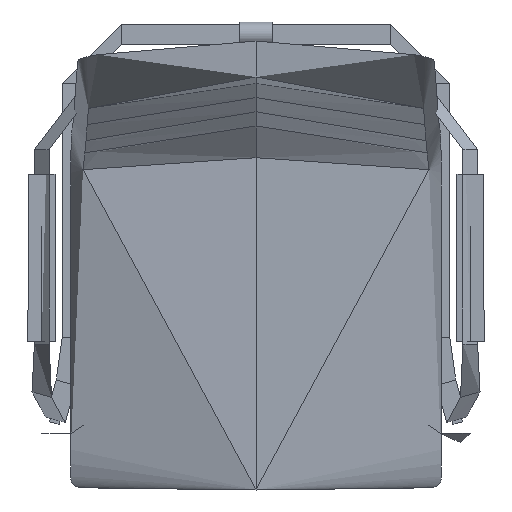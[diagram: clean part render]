
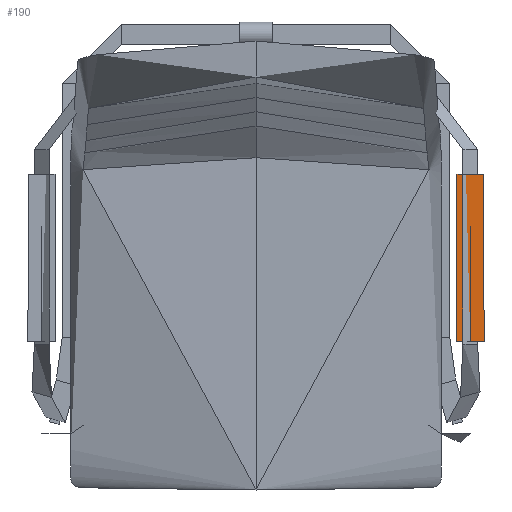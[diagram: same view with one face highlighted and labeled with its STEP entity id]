
A CAD part, top view. The second image highlights one B-rep face of the part: STEP entity #190.
In plain terms, the highlighted free-form (B-spline) face has degree [1, 2] with [2, 9] control points.
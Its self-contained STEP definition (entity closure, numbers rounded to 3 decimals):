
#96=B_SPLINE_CURVE_WITH_KNOTS('',3,(#1964,#1965,#1966,#1967),
 .UNSPECIFIED.,.F.,.F.,(4,4),(0.,205.063),.UNSPECIFIED.);
#97=B_SPLINE_CURVE_WITH_KNOTS('',3,(#1968,#1969,#1970,#1971),
 .UNSPECIFIED.,.F.,.F.,(4,4),(0.,205.063),.UNSPECIFIED.);
#190=ADVANCED_FACE('',(#304),#1459,.T.);
#304=FACE_OUTER_BOUND('',#418,.T.);
#418=EDGE_LOOP('',(#616,#617,#618,#619));
#616=ORIENTED_EDGE('',*,*,#1008,.T.);
#617=ORIENTED_EDGE('',*,*,#1010,.F.);
#618=ORIENTED_EDGE('',*,*,#1009,.F.);
#619=ORIENTED_EDGE('',*,*,#1011,.T.);
#1008=EDGE_CURVE('',#1360,#1363,#96,.T.);
#1009=EDGE_CURVE('',#1361,#1364,#97,.T.);
#1010=EDGE_CURVE('',#1364,#1363,#1191,.T.);
#1011=EDGE_CURVE('',#1361,#1360,#1192,.T.);
#1191=(
BOUNDED_CURVE()
B_SPLINE_CURVE(2,(#1972,#1973,#1974,#1975,#1976),.UNSPECIFIED.,.F.,.F.)
B_SPLINE_CURVE_WITH_KNOTS((3,2,3),(26.704,53.407,80.111),
 .UNSPECIFIED.)
CURVE()
GEOMETRIC_REPRESENTATION_ITEM()
RATIONAL_B_SPLINE_CURVE((1.,0.707,1.,0.707,1.))
REPRESENTATION_ITEM('')
);
#1192=(
BOUNDED_CURVE()
B_SPLINE_CURVE(2,(#1977,#1978,#1979,#1980,#1981),.UNSPECIFIED.,.F.,.F.)
B_SPLINE_CURVE_WITH_KNOTS((3,2,3),(32.05,53.407,74.764),
 .UNSPECIFIED.)
CURVE()
GEOMETRIC_REPRESENTATION_ITEM()
RATIONAL_B_SPLINE_CURVE((1.,0.804,1.,0.804,1.))
REPRESENTATION_ITEM('')
);
#1360=VERTEX_POINT('',#1955);
#1361=VERTEX_POINT('',#1956);
#1363=VERTEX_POINT('',#1958);
#1364=VERTEX_POINT('',#1959);
#1459=(
BOUNDED_SURFACE()
B_SPLINE_SURFACE(1,2,((#1920,#1921,#1922,#1923,#1924,#1925,#1926,#1927,
#1928),(#1929,#1930,#1931,#1932,#1933,#1934,#1935,#1936,#1937)),
 .UNSPECIFIED.,.F.,.F.,.F.)
B_SPLINE_SURFACE_WITH_KNOTS((2,2),(3,2,2,2,3),(0.,205.),(0.,26.704,
53.407,80.111,106.814),.UNSPECIFIED.)
GEOMETRIC_REPRESENTATION_ITEM()
RATIONAL_B_SPLINE_SURFACE(((1.,0.707,1.,0.707,1.,
0.707,1.,0.707,1.),(1.,0.707,1.,0.707,
1.,0.707,1.,0.707,1.)))
REPRESENTATION_ITEM('')
SURFACE()
);
#1920=CARTESIAN_POINT('',(262.5,-70.5,603.));
#1921=CARTESIAN_POINT('',(279.5,-70.5,603.));
#1922=CARTESIAN_POINT('',(279.5,-70.5,620.));
#1923=CARTESIAN_POINT('',(279.5,-70.5,637.));
#1924=CARTESIAN_POINT('',(262.5,-70.5,637.));
#1925=CARTESIAN_POINT('',(245.5,-70.5,637.));
#1926=CARTESIAN_POINT('',(245.5,-70.5,620.));
#1927=CARTESIAN_POINT('',(245.5,-70.5,603.));
#1928=CARTESIAN_POINT('',(262.5,-70.5,603.));
#1929=CARTESIAN_POINT('',(262.5,134.5,603.));
#1930=CARTESIAN_POINT('',(279.5,134.5,603.));
#1931=CARTESIAN_POINT('',(279.5,134.5,620.));
#1932=CARTESIAN_POINT('',(279.5,134.5,637.));
#1933=CARTESIAN_POINT('',(262.5,134.5,637.));
#1934=CARTESIAN_POINT('',(245.5,134.5,637.));
#1935=CARTESIAN_POINT('',(245.5,134.5,620.));
#1936=CARTESIAN_POINT('',(245.5,134.5,603.));
#1937=CARTESIAN_POINT('',(262.5,134.5,603.));
#1955=CARTESIAN_POINT('',(246.252,134.5,625.));
#1956=CARTESIAN_POINT('',(278.748,134.5,625.));
#1958=CARTESIAN_POINT('',(245.5,-70.5,620.));
#1959=CARTESIAN_POINT('',(279.5,-70.5,620.));
#1964=CARTESIAN_POINT('',(246.252,134.5,625.));
#1965=CARTESIAN_POINT('',(245.762,66.166,623.407));
#1966=CARTESIAN_POINT('',(245.5,-2.167,621.667));
#1967=CARTESIAN_POINT('',(245.5,-70.5,620.));
#1968=CARTESIAN_POINT('',(278.748,134.5,625.));
#1969=CARTESIAN_POINT('',(279.238,66.166,623.407));
#1970=CARTESIAN_POINT('',(279.5,-2.167,621.667));
#1971=CARTESIAN_POINT('',(279.5,-70.5,620.));
#1972=CARTESIAN_POINT('',(279.5,-70.5,620.));
#1973=CARTESIAN_POINT('',(279.5,-70.5,637.));
#1974=CARTESIAN_POINT('',(262.5,-70.5,637.));
#1975=CARTESIAN_POINT('',(245.5,-70.5,637.));
#1976=CARTESIAN_POINT('',(245.5,-70.5,620.));
#1977=CARTESIAN_POINT('',(278.748,134.5,625.));
#1978=CARTESIAN_POINT('',(275.055,134.5,637.));
#1979=CARTESIAN_POINT('',(262.5,134.5,637.));
#1980=CARTESIAN_POINT('',(249.945,134.5,637.));
#1981=CARTESIAN_POINT('',(246.252,134.5,625.));
